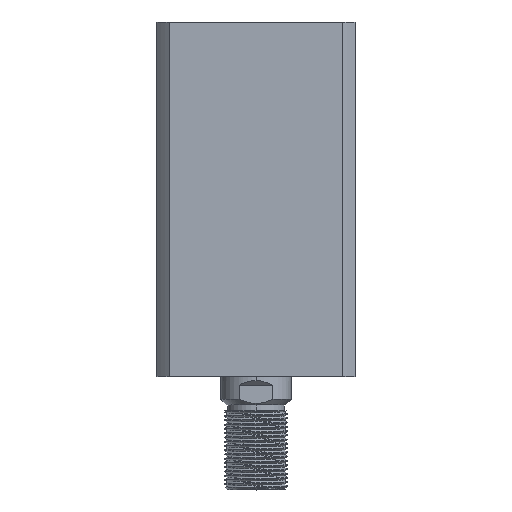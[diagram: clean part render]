
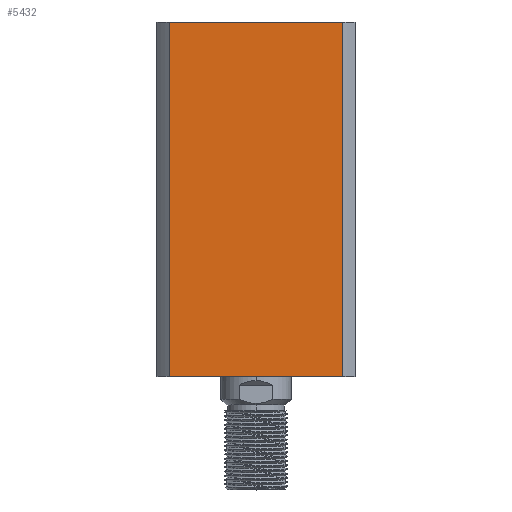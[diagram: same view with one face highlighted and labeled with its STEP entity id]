
A CAD part, top view. The second image highlights one B-rep face of the part: STEP entity #5432.
In plain terms, the highlighted planar face has unit normal (0, 0, 1) as drawn and (1, 0, 0) by its records, which use the part's own axes.
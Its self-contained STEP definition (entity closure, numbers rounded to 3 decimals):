
#191 = VECTOR ( 'NONE', #1776, 1000. ) ;
#231 = DIRECTION ( 'NONE',  ( 0., 0., -1. ) ) ;
#615 = DIRECTION ( 'NONE',  ( -1., 0., 0. ) ) ;
#1772 = EDGE_CURVE ( 'NONE', #8904, #4117, #6640, .T. ) ;
#1776 = DIRECTION ( 'NONE',  ( 0., 1., 0. ) ) ;
#2217 = VECTOR ( 'NONE', #6383, 1000. ) ;
#3294 = CARTESIAN_POINT ( 'NONE',  ( 35., -30.615, 300. ) ) ;
#3664 = VERTEX_POINT ( 'NONE', #13469 ) ;
#3848 = CARTESIAN_POINT ( 'NONE',  ( 35., 35., 125. ) ) ;
#3985 = CARTESIAN_POINT ( 'NONE',  ( 35., 35., 0. ) ) ;
#4117 = VERTEX_POINT ( 'NONE', #10892 ) ;
#4436 = CARTESIAN_POINT ( 'NONE',  ( 35., -30.615, 0. ) ) ;
#4708 = EDGE_CURVE ( 'NONE', #3664, #10605, #5790, .T. ) ;
#5053 = DIRECTION ( 'NONE',  ( 0., 1., 0. ) ) ;
#5359 = CARTESIAN_POINT ( 'NONE',  ( 35., 30.615, 125. ) ) ;
#5432 = ADVANCED_FACE ( 'NONE', ( #10771 ), #13185, .F. ) ;
#5463 = CARTESIAN_POINT ( 'NONE',  ( 35., 30.615, 300. ) ) ;
#5790 = LINE ( 'NONE', #3848, #191 ) ;
#6383 = DIRECTION ( 'NONE',  ( 0., 0., 1. ) ) ;
#6640 = LINE ( 'NONE', #3985, #9393 ) ;
#6698 = EDGE_LOOP ( 'NONE', ( #9895, #10793, #9461, #11766 ) ) ;
#7956 = DIRECTION ( 'NONE',  ( 0., 0., 1. ) ) ;
#8904 = VERTEX_POINT ( 'NONE', #4436 ) ;
#9393 = VECTOR ( 'NONE', #5053, 1000. ) ;
#9461 = ORIENTED_EDGE ( 'NONE', *, *, #10047, .F. ) ;
#9895 = ORIENTED_EDGE ( 'NONE', *, *, #12231, .F. ) ;
#9935 = VECTOR ( 'NONE', #231, 1000. ) ;
#10047 = EDGE_CURVE ( 'NONE', #8904, #3664, #13388, .T. ) ;
#10195 = AXIS2_PLACEMENT_3D ( 'NONE', #13144, #615, #7956 ) ;
#10605 = VERTEX_POINT ( 'NONE', #5359 ) ;
#10771 = FACE_OUTER_BOUND ( 'NONE', #6698, .T. ) ;
#10793 = ORIENTED_EDGE ( 'NONE', *, *, #4708, .F. ) ;
#10892 = CARTESIAN_POINT ( 'NONE',  ( 35., 30.615, 0. ) ) ;
#11766 = ORIENTED_EDGE ( 'NONE', *, *, #1772, .T. ) ;
#12231 = EDGE_CURVE ( 'NONE', #10605, #4117, #12695, .T. ) ;
#12695 = LINE ( 'NONE', #5463, #9935 ) ;
#13144 = CARTESIAN_POINT ( 'NONE',  ( 35., 35., 125. ) ) ;
#13185 = PLANE ( 'NONE',  #10195 ) ;
#13388 = LINE ( 'NONE', #3294, #2217 ) ;
#13469 = CARTESIAN_POINT ( 'NONE',  ( 35., -30.615, 125. ) ) ;
